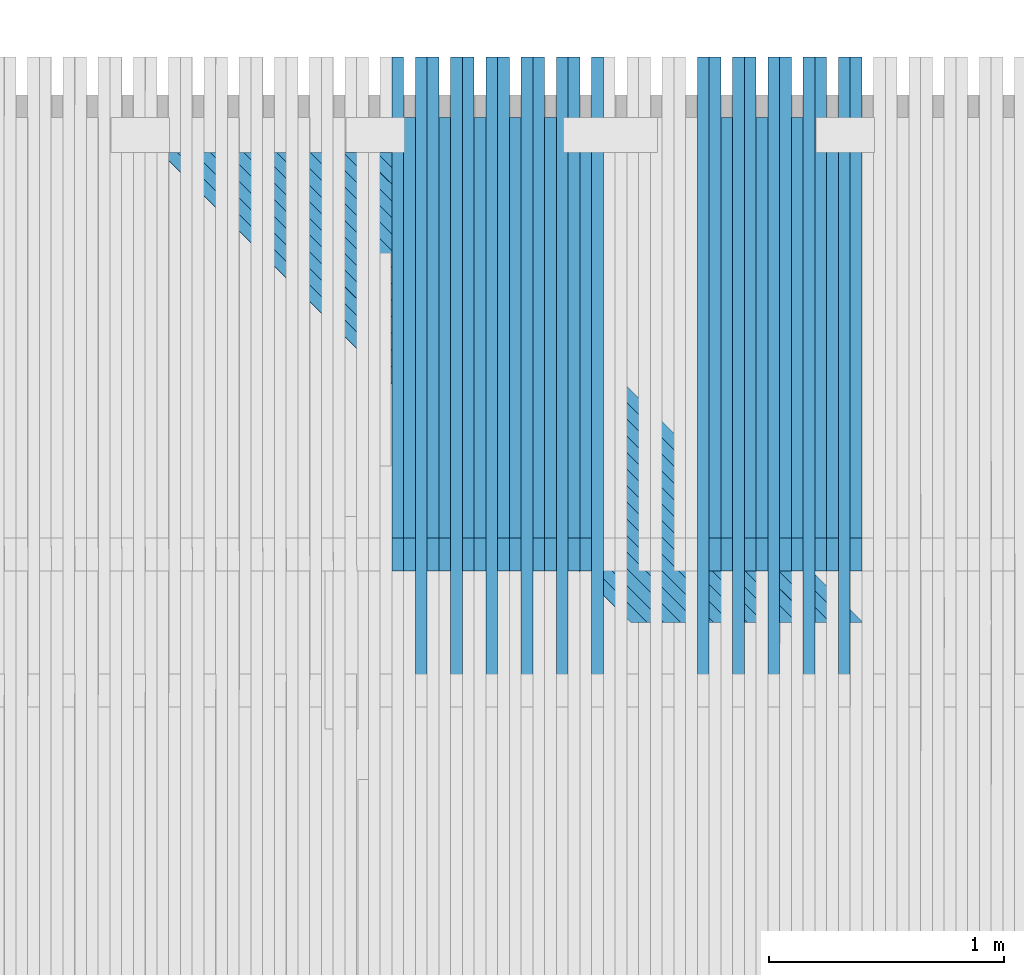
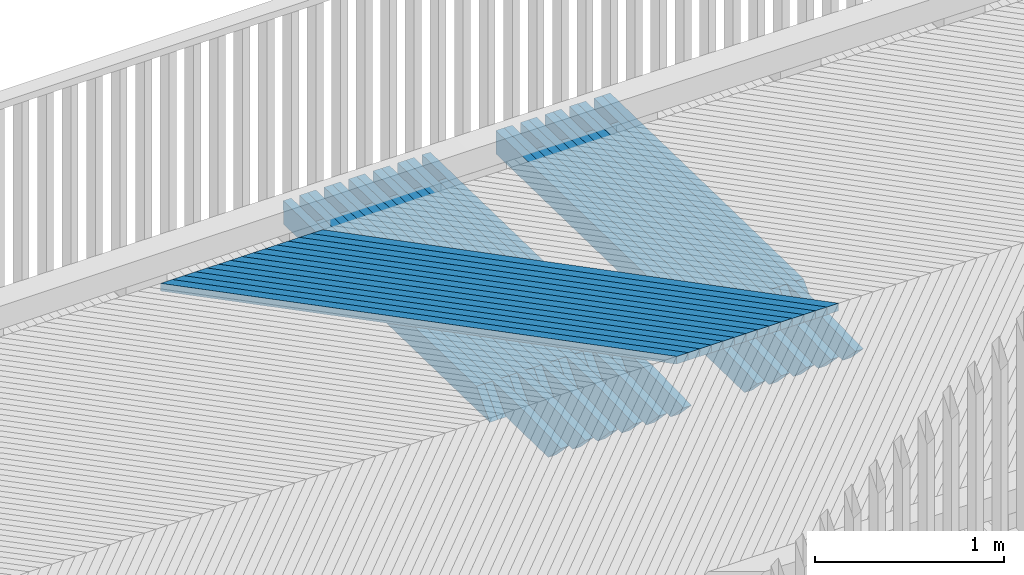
# One storey, part 32 of 47: 46 beams.
"""IFC2X3 building model written with IfcOpenShell, lengths in millimetres."""

from ifc_helpers import new_model, si_unit, frame, origin_with_axes, place, context, subcontext, project, spatial, faceted_brep, material, type_object, element, save


model = new_model("IFC2X3")

# Units and contexts
model_context = context("Model", 3, precision=1e-05, world=origin_with_axes())
body_context = subcontext(model_context, "Body", "Model", "MODEL_VIEW")
ifc_project = project(units=[si_unit("LENGTHUNIT", "METRE", prefix="MILLI"), si_unit("AREAUNIT", "SQUARE_METRE"), si_unit("VOLUMEUNIT", "CUBIC_METRE"), si_unit("MASSUNIT", "GRAM", prefix="KILO"), si_unit("TIMEUNIT", "SECOND"), si_unit("PLANEANGLEUNIT", "RADIAN"), si_unit("SOLIDANGLEUNIT", "STERADIAN"), si_unit("THERMODYNAMICTEMPERATUREUNIT", "DEGREE_CELSIUS"), si_unit("LUMINOUSINTENSITYUNIT", "LUMEN")], contexts=[model_context])

# Site, building, storey
site_placement = place(None, origin_with_axes())
site = spatial("IfcSite", under=ifc_project, at=site_placement, Name="Undefined", CompositionType="ELEMENT")
building_placement = place(site_placement, origin_with_axes())
building = spatial("IfcBuilding", under=site, at=building_placement, Name="Undefined", CompositionType="ELEMENT")
storey_placement = place(building_placement, origin_with_axes())
storey = spatial("IfcBuildingStorey", under=building, at=storey_placement, Name="Undefined", CompositionType="ELEMENT", Elevation=0.0)

# Beams
ifc_material = material(Name="TIMBER/Timber_Undefined")
beam_type_1 = type_object("IfcBeamType", Name="150*50", PredefinedType="NOTDEFINED")
beam_1_placement = place(storey_placement, frame((10050.2600322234, 64771.4438078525, 3084.49725776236), z_axis=(0.00340794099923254, 0.0199960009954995, 0.999794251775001), x_axis=(6.81579999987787e-05, -0.999800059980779, 0.0199958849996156)))
element("IfcBeam", 1, at=beam_1_placement, inside=storey, type_object=beam_type_1, material=ifc_material, Name="BEAM", ObjectType="150*50", context=body_context, shape_type="Brep", body=[
    faceted_brep([(6.18456397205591e-09, -24.9999999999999, -75.0000000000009), (-6.1918399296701e-09, -24.9999999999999, 74.9999999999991), (-6.19911588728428e-09, 25.0, 75.0), (6.18456397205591e-09, 24.9999999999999, -75.0), (2047.96935975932, 25.0, 75.0), (2186.42645864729, 25.0, -75.0), (2186.42645915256, -25.0000000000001, -75.0), (2047.96936034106, -25.0000000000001, 75.0)], [[[0, 1, 2, 3]], [[3, 2, 4, 5]], [[0, 3, 5, 6]], [[1, 0, 6, 7]], [[2, 1, 7, 4]], [[7, 6, 5, 4]]]),
])
beam_2_placement = place(storey_placement, frame((10000.2208937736, 64771.443807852, 3084.66694004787), z_axis=(0.00324112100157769, 0.0199960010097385, 0.999794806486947), x_axis=(6.48230000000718e-05, -0.999800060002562, 0.0199958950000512)))
element("IfcBeam", 2, at=beam_2_placement, inside=storey, type_object=beam_type_1, material=ifc_material, Name="BEAM", ObjectType="150*50", context=body_context, shape_type="Brep", body=[
    faceted_brep([(6.18456397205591e-09, -24.9999999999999, -75.0000000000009), (6.18456397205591e-09, 24.9999999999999, -75.0), (2633.00494983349, 25.0000000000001, -75.0000000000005), (2633.00495050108, -24.9999999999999, -75.0000000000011), (-6.1918399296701e-09, -24.9999999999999, 74.9999999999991), (-6.19911588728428e-09, 25.0, 75.0), (2408.42501428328, 25.0000000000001, 74.9999999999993), (2768.5924870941, 25.0, 60.5875375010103), (2768.59248707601, -25.0, 60.5875366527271), (2408.4250638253, -25.0, 74.9999999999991)], [[[0, 1, 2, 3]], [[0, 4, 5, 1]], [[2, 1, 5, 6, 7]], [[3, 2, 7, 8]], [[4, 0, 3, 8, 9]], [[5, 4, 9, 6]], [[8, 7, 6, 9]]]),
])
beam_3_placement = place(storey_placement, frame((9950.1530733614, 64513.4953923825, 3089.98889092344), z_axis=(0.00324112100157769, 0.0199960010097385, 0.999794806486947), x_axis=(6.48230000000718e-05, -0.999800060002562, 0.0199958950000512)))
element("IfcBeam", 3, at=beam_3_placement, inside=storey, type_object=beam_type_1, material=ifc_material, Name="BEAM", ObjectType="150*50", context=body_context, shape_type="Brep", body=[
    faceted_brep([(6.18456397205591e-09, -24.9999999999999, -75.0000000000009), (-6.1918399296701e-09, -24.9999999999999, 74.9999999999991), (-6.19911588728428e-09, 25.0, 75.0), (6.18456397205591e-09, 24.9999999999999, -75.0), (1789.96936586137, 25.0, 75.0000000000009), (1928.42646506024, 25.0, -75.0), (1928.4264649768, -24.9999999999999, -75.0), (1789.96936577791, -24.9999999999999, 75.0)], [[[0, 1, 2, 3]], [[3, 2, 4, 5]], [[0, 3, 5, 6]], [[1, 0, 6, 7]], [[2, 1, 7, 4]], [[7, 6, 5, 4]]]),
])
beam_4_placement = place(storey_placement, frame((9900.23207587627, 64771.4438078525, 3084.98955429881), z_axis=(0.00315875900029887, 0.019996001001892, 0.999795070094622), x_axis=(6.31749999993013e-05, -0.999800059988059, 0.0199959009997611)))
element("IfcBeam", 4, at=beam_4_placement, inside=storey, type_object=beam_type_1, material=ifc_material, Name="BEAM", ObjectType="150*50", context=body_context, shape_type="Brep", body=[
    faceted_brep([(6.18456397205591e-09, -24.9999999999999, -75.0000000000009), (-6.1918399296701e-09, -24.9999999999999, 74.9999999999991), (-6.19911588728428e-09, 25.0, 75.0), (6.18456397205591e-09, 24.9999999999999, -75.0), (2047.96935975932, 25.0, 75.0), (2186.42645864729, 25.0, -75.0), (2186.42645915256, -25.0000000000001, -75.0), (2047.96936034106, -25.0000000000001, 75.0)], [[[0, 1, 2, 3]], [[3, 2, 4, 5]], [[0, 3, 5, 6]], [[1, 0, 6, 7]], [[2, 1, 7, 4]], [[7, 6, 5, 4]]]),
])
beam_5_placement = place(storey_placement, frame((9850.19289669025, 64771.443807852, 3085.14676517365), z_axis=(0.00299193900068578, 0.0199960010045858, 0.999795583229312), x_axis=(5.98390000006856e-05, -0.999800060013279, 0.0199959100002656)))
element("IfcBeam", 5, at=beam_5_placement, inside=storey, type_object=beam_type_1, material=ifc_material, Name="BEAM", ObjectType="150*50", context=body_context, shape_type="Brep", body=[
    faceted_brep([(6.18456397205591e-09, -24.9999999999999, -75.0000000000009), (6.18456397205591e-09, 24.9999999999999, -75.0), (2633.00494983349, 25.0000000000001, -75.0000000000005), (2633.00495050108, -24.9999999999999, -75.0000000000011), (-6.1918399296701e-09, -24.9999999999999, 74.9999999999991), (-6.19911588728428e-09, 25.0, 75.0), (2408.42506497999, 24.9999999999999, 75.0), (2768.5924870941, 25.0, 60.5875375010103), (2768.59248707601, -25.0, 60.5875366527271), (2408.4250638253, -25.0, 74.9999999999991)], [[[0, 1, 2, 3]], [[0, 4, 5, 1]], [[2, 1, 5, 6, 7]], [[3, 2, 7, 8]], [[4, 0, 3, 8, 9]], [[5, 4, 9, 6]], [[8, 7, 6, 9]]]),
])
beam_6_placement = place(storey_placement, frame((9800.12375142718, 64513.4953923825, 3090.4562373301), z_axis=(0.00299193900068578, 0.0199960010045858, 0.999795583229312), x_axis=(5.98390000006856e-05, -0.999800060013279, 0.0199959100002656)))
element("IfcBeam", 6, at=beam_6_placement, inside=storey, type_object=beam_type_1, material=ifc_material, Name="BEAM", ObjectType="150*50", context=body_context, shape_type="Brep", body=[
    faceted_brep([(6.18456397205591e-09, -24.9999999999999, -75.0000000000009), (-6.1918399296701e-09, -24.9999999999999, 74.9999999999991), (-6.19911588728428e-09, 25.0, 75.0), (6.18456397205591e-09, 24.9999999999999, -75.0), (1789.96936586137, 25.0, 75.0000000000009), (1928.42646506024, 25.0, -75.0), (1928.4264649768, -24.9999999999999, -75.0), (1789.96936577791, -24.9999999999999, 75.0)], [[[0, 1, 2, 3]], [[3, 2, 4, 5]], [[0, 3, 5, 6]], [[1, 0, 6, 7]], [[2, 1, 7, 4]], [[7, 6, 5, 4]]]),
])
beam_7_placement = place(storey_placement, frame((9750.20400149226, 64771.4438078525, 3085.4444588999), z_axis=(0.00290957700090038, 0.019996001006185, 0.99979582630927), x_axis=(5.81909999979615e-05, -0.999800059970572, 0.0199959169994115)))
element("IfcBeam", 7, at=beam_7_placement, inside=storey, type_object=beam_type_1, material=ifc_material, Name="BEAM", ObjectType="150*50", context=body_context, shape_type="Brep", body=[
    faceted_brep([(6.18456397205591e-09, -24.9999999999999, -75.0000000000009), (-6.1918399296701e-09, -24.9999999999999, 74.9999999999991), (-6.19911588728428e-09, 25.0, 75.0), (6.18456397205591e-09, 24.9999999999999, -75.0), (2047.96935975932, 25.0, 75.0), (2186.42645864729, 25.0, -75.0), (2186.42645915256, -25.0000000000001, -75.0), (2047.96936034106, -25.0000000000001, 75.0)], [[[0, 1, 2, 3]], [[3, 2, 4, 5]], [[0, 3, 5, 6]], [[1, 0, 6, 7]], [[2, 1, 7, 4]], [[7, 6, 5, 4]]]),
])
beam_8_placement = place(storey_placement, frame((9700.16478467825, 64771.443807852, 3085.5891983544), z_axis=(0.00274275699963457, 0.0199960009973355, 0.999796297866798), x_axis=(5.48549999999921e-05, -0.99980005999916, 0.0199959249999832)))
element("IfcBeam", 8, at=beam_8_placement, inside=storey, type_object=beam_type_1, material=ifc_material, Name="BEAM", ObjectType="150*50", context=body_context, shape_type="Brep", body=[
    faceted_brep([(6.18456397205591e-09, -24.9999999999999, -75.0000000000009), (6.18456397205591e-09, 24.9999999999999, -75.0), (2633.00494983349, 25.0000000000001, -75.0000000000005), (2633.00495050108, -24.9999999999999, -75.0000000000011), (-6.1918399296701e-09, -24.9999999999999, 74.9999999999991), (-6.19911588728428e-09, 25.0, 75.0), (2408.42501428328, 25.0000000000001, 74.9999999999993), (2768.5924870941, 25.0, 60.5875375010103), (2768.59248707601, -25.0, 60.5875366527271), (2408.4250638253, -25.0, 74.9999999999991)], [[[0, 1, 2, 3]], [[0, 4, 5, 1]], [[2, 1, 5, 6, 7]], [[3, 2, 7, 8]], [[4, 0, 3, 8, 9]], [[5, 4, 9, 6]], [[8, 7, 6, 9]]]),
])
beam_9_placement = place(storey_placement, frame((9650.0943176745, 64513.4953923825, 3090.88619146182), z_axis=(0.00274275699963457, 0.0199960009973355, 0.999796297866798), x_axis=(5.48549999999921e-05, -0.99980005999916, 0.0199959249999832)))
element("IfcBeam", 9, at=beam_9_placement, inside=storey, type_object=beam_type_1, material=ifc_material, Name="BEAM", ObjectType="150*50", context=body_context, shape_type="Brep", body=[
    faceted_brep([(6.18456397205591e-09, -24.9999999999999, -75.0000000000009), (-6.1918399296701e-09, -24.9999999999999, 74.9999999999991), (-6.19911588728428e-09, 25.0, 75.0), (6.18456397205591e-09, 24.9999999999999, -75.0), (1789.96936586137, 25.0, 75.0000000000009), (1928.42646506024, 25.0, -75.0), (1928.4264649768, -24.9999999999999, -75.0), (1789.96936577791, -24.9999999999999, 75.0)], [[[0, 1, 2, 3]], [[3, 2, 4, 5]], [[0, 3, 5, 6]], [[1, 0, 6, 7]], [[2, 1, 7, 4]], [[7, 6, 5, 4]]]),
])
beam_10_placement = place(storey_placement, frame((9600.17581839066, 64771.4438078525, 3085.8619715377), z_axis=(0.00266039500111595, 0.0199960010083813, 0.999796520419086), x_axis=(5.32079999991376e-05, -0.999800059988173, 0.0199959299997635)))
element("IfcBeam", 10, at=beam_10_placement, inside=storey, type_object=beam_type_1, material=ifc_material, Name="BEAM", ObjectType="150*50", context=body_context, shape_type="Brep", body=[
    faceted_brep([(6.18456397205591e-09, -24.9999999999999, -75.0000000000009), (-6.1918399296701e-09, -24.9999999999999, 74.9999999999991), (-6.19911588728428e-09, 25.0, 75.0), (6.18456397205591e-09, 24.9999999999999, -75.0), (2047.96935975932, 25.0, 75.0), (2186.42645864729, 25.0, -75.0), (2186.42645915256, -25.0000000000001, -75.0), (2047.96936034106, -25.0000000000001, 75.0)], [[[0, 1, 2, 3]], [[3, 2, 4, 5]], [[0, 3, 5, 6]], [[1, 0, 6, 7]], [[2, 1, 7, 4]], [[7, 6, 5, 4]]]),
])
beam_11_placement = place(storey_placement, frame((9550.13656705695, 64771.443807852, 3085.99423956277), z_axis=(0.00249357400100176, 0.019996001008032, 0.999796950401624), x_axis=(4.98719999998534e-05, -0.99980006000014, 0.0199959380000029)))
element("IfcBeam", 11, at=beam_11_placement, inside=storey, type_object=beam_type_1, material=ifc_material, Name="BEAM", ObjectType="150*50", context=body_context, shape_type="Brep", body=[
    faceted_brep([(6.18456397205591e-09, -24.9999999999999, -75.0000000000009), (6.18456397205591e-09, 24.9999999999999, -75.0), (2633.00494983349, 25.0000000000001, -75.0000000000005), (2633.00495050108, -24.9999999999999, -75.0000000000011), (-6.1918399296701e-09, -24.9999999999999, 74.9999999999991), (-6.19911588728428e-09, 25.0, 75.0), (2408.42501428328, 25.0000000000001, 74.9999999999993), (2768.5924870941, 25.0, 60.5875375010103), (2768.59248707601, -25.0, 60.5875366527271), (2408.4250638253, -25.0, 74.9999999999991)], [[[0, 1, 2, 3]], [[0, 4, 5, 1]], [[2, 1, 5, 6, 7]], [[3, 2, 7, 8]], [[4, 0, 3, 8, 9]], [[5, 4, 9, 6]], [[8, 7, 6, 9]]]),
])
beam_12_placement = place(storey_placement, frame((9500.06478142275, 64513.4953923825, 3091.2787532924), z_axis=(0.00249357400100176, 0.019996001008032, 0.999796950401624), x_axis=(4.98719999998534e-05, -0.99980006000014, 0.0199959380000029)))
element("IfcBeam", 12, at=beam_12_placement, inside=storey, type_object=beam_type_1, material=ifc_material, Name="BEAM", ObjectType="150*50", context=body_context, shape_type="Brep", body=[
    faceted_brep([(6.18456397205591e-09, -24.9999999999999, -75.0000000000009), (-6.1918399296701e-09, -24.9999999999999, 74.9999999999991), (-6.19911588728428e-09, 25.0, 75.0), (6.18456397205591e-09, 24.9999999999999, -75.0), (1789.96936586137, 25.0, 75.0000000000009), (1928.42646506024, 25.0, -75.0), (1928.4264649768, -24.9999999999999, -75.0), (1789.96936577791, -24.9999999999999, 75.0)], [[[0, 1, 2, 3]], [[3, 2, 4, 5]], [[0, 3, 5, 6]], [[1, 0, 6, 7]], [[2, 1, 7, 4]], [[7, 6, 5, 4]]]),
])
beam_13_placement = place(storey_placement, frame((9450.14753589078, 64771.4438078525, 3086.24209218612), z_axis=(0.00241121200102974, 0.0199960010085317, 0.999797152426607), x_axis=(4.82239999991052e-05, -0.999800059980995, 0.0199959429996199)))
element("IfcBeam", 13, at=beam_13_placement, inside=storey, type_object=beam_type_1, material=ifc_material, Name="BEAM", ObjectType="150*50", context=body_context, shape_type="Brep", body=[
    faceted_brep([(6.18456397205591e-09, -24.9999999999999, -75.0000000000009), (-6.1918399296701e-09, -24.9999999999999, 74.9999999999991), (-6.19911588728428e-09, 25.0, 75.0), (6.18456397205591e-09, 24.9999999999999, -75.0), (2047.96935975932, 25.0, 75.0), (2186.42645864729, 25.0, -75.0), (2186.42645915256, -25.0000000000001, -75.0), (2047.96936034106, -25.0000000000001, 75.0)], [[[0, 1, 2, 3]], [[3, 2, 4, 5]], [[0, 3, 5, 6]], [[1, 0, 6, 7]], [[2, 1, 7, 4]], [[7, 6, 5, 4]]]),
])
for number, where, z_axis, x_axis, name in (
    (14, (9400.10825314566, 64771.443807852, 3086.36188877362), (0.00224439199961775, 0.0199960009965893, 0.99979754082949), (4.48879999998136e-05, -0.999800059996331, 0.0199959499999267), "BEAM"),
    (15, (8950.02282686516, 64771.443807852, 3087.24048420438), (0.00149684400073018, 0.0199960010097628, 0.999798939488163), (2.99369999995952e-05, -0.999800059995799, 0.019995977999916), "BEAM"),
):
    element("IfcBeam", number, at=place(storey_placement, frame(where, z_axis=z_axis, x_axis=x_axis)), inside=storey, type_object=beam_type_1, material=ifc_material, Name=name, ObjectType="150*50", context=body_context, shape_type="Brep", body=[
        faceted_brep([(6.18456397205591e-09, -24.9999999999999, -75.0000000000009), (6.18456397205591e-09, 24.9999999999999, -75.0), (2633.00494983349, 25.0000000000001, -75.0000000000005), (2633.00495050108, -24.9999999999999, -75.0000000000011), (-6.1918399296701e-09, -24.9999999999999, 74.9999999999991), (-6.19911588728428e-09, 25.0, 75.0), (2408.42501428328, 25.0000000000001, 74.9999999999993), (2768.5924870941, 25.0, 60.5875375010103), (2768.59248707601, -25.0, 60.5875366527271), (2408.42499905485, -25.0, 74.9999999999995)], [[[0, 1, 2, 3]], [[0, 4, 5, 1]], [[2, 1, 5, 6, 7]], [[3, 2, 7, 8]], [[4, 0, 3, 8, 9]], [[5, 4, 9, 6]], [[6, 9, 8, 7]]]),
    ])
beam_14_placement = place(storey_placement, frame((8899.94579781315, 64513.4953923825, 3092.47507714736), z_axis=(0.00149684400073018, 0.0199960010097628, 0.999798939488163), x_axis=(2.99369999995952e-05, -0.999800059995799, 0.019995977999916)))
element("IfcBeam", 16, at=beam_14_placement, inside=storey, type_object=beam_type_1, material=ifc_material, Name="BEAM", ObjectType="150*50", context=body_context, shape_type="Brep", body=[
    faceted_brep([(6.18456397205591e-09, -24.9999999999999, -75.0000000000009), (-6.1918399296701e-09, -24.9999999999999, 74.9999999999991), (-6.19911588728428e-09, 25.0, 75.0), (6.18456397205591e-09, 24.9999999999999, -75.0), (1789.96936586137, 25.0, 75.0000000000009), (1928.42646506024, 25.0, -75.0), (1928.4264649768, -24.9999999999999, -75.0), (1789.96936577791, -24.9999999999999, 75.0)], [[[0, 1, 2, 3]], [[3, 2, 4, 5]], [[0, 3, 5, 6]], [[1, 0, 6, 7]], [[2, 1, 7, 4]], [[7, 6, 5, 4]]]),
])
beam_15_placement = place(storey_placement, frame((8850.03359829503, 64771.4438078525, 3087.38865444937), z_axis=(0.00141448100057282, 0.0199960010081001, 0.99979905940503), x_axis=(2.82889999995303e-05, -0.999800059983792, 0.0199959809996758)))
element("IfcBeam", 17, at=beam_15_placement, inside=storey, type_object=beam_type_1, material=ifc_material, Name="BEAM", ObjectType="150*50", context=body_context, shape_type="Brep", body=[
    faceted_brep([(6.18456397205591e-09, -24.9999999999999, -75.0000000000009), (-6.1918399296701e-09, -24.9999999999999, 74.9999999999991), (-6.19911588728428e-09, 25.0, 75.0), (6.18456397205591e-09, 24.9999999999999, -75.0), (2047.96935975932, 25.0, 75.0), (2186.42645864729, 25.0, -75.0), (2186.42645915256, -25.0000000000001, -75.0), (2047.96936034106, -25.0000000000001, 75.0)], [[[0, 1, 2, 3]], [[3, 2, 4, 5]], [[0, 3, 5, 6]], [[1, 0, 6, 7]], [[2, 1, 7, 4]], [[7, 6, 5, 4]]]),
])
beam_16_placement = place(storey_placement, frame((8799.99422098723, 64771.443807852, 3087.45856522), z_axis=(0.00124766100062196, 0.0199960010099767, 0.99979928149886), x_axis=(2.49530000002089e-05, -0.999800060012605, 0.0199959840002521)))
element("IfcBeam", 18, at=beam_16_placement, inside=storey, type_object=beam_type_1, material=ifc_material, Name="BEAM", ObjectType="150*50", context=body_context, shape_type="Brep", body=[
    faceted_brep([(6.18456397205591e-09, -24.9999999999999, -75.0000000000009), (6.18456397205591e-09, 24.9999999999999, -75.0), (2633.00494983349, 25.0000000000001, -75.0000000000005), (2633.00495050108, -24.9999999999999, -75.0000000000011), (-6.1918399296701e-09, -24.9999999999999, 74.9999999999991), (-6.19911588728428e-09, 25.0, 75.0), (2408.42506497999, 24.9999999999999, 75.0), (2768.5924870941, 25.0, 60.5875375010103), (2768.59248707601, -25.0, 60.5875366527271), (2408.4250638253, -25.0, 74.9999999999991)], [[[0, 1, 2, 3]], [[0, 4, 5, 1]], [[2, 1, 5, 6, 7]], [[3, 2, 7, 8]], [[4, 0, 3, 8, 9]], [[5, 4, 9, 6]], [[8, 7, 6, 9]]]),
])
beam_17_placement = place(storey_placement, frame((8749.91588885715, 64513.4953923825, 3092.68067715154), z_axis=(0.00124766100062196, 0.0199960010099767, 0.99979928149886), x_axis=(2.49530000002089e-05, -0.999800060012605, 0.0199959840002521)))
element("IfcBeam", 19, at=beam_17_placement, inside=storey, type_object=beam_type_1, material=ifc_material, Name="BEAM", ObjectType="150*50", context=body_context, shape_type="Brep", body=[
    faceted_brep([(6.18456397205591e-09, -24.9999999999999, -75.0000000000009), (-6.1918399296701e-09, -24.9999999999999, 74.9999999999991), (-6.19911588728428e-09, 25.0, 75.0), (6.18456397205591e-09, 24.9999999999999, -75.0), (1789.96936586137, 25.0, 75.0000000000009), (1928.42646506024, 25.0, -75.0), (1928.4264649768, -24.9999999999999, -75.0), (1789.96936577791, -24.9999999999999, 75.0)], [[[0, 1, 2, 3]], [[3, 2, 4, 5]], [[0, 3, 5, 6]], [[1, 0, 6, 7]], [[2, 1, 7, 4]], [[7, 6, 5, 4]]]),
])
beam_18_placement = place(storey_placement, frame((8700.0049585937, 64771.4438078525, 3087.58181484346), z_axis=(0.00116529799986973, 0.0199960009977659, 0.99979938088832), x_axis=(2.33059999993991e-05, -0.999800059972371, 0.0199959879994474)))
element("IfcBeam", 20, at=beam_18_placement, inside=storey, type_object=beam_type_1, material=ifc_material, Name="BEAM", ObjectType="150*50", context=body_context, shape_type="Brep", body=[
    faceted_brep([(6.18456397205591e-09, -24.9999999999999, -75.0000000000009), (-6.1918399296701e-09, -24.9999999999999, 74.9999999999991), (-6.19911588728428e-09, 25.0, 75.0), (6.18456397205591e-09, 24.9999999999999, -75.0), (2047.96935975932, 25.0, 75.0), (2186.42645864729, 25.0, -75.0), (2186.42645915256, -25.0000000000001, -75.0), (2047.96936034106, -25.0000000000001, 75.0)], [[[0, 1, 2, 3]], [[3, 2, 4, 5]], [[0, 3, 5, 6]], [[1, 0, 6, 7]], [[2, 1, 7, 4]], [[7, 6, 5, 4]]]),
])
beam_19_placement = place(storey_placement, frame((8649.96556541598, 64771.443807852, 3087.63925414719), z_axis=(0.000998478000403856, 0.0199960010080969, 0.999799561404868), x_axis=(1.99700000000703e-05, -0.999800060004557, 0.0199959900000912)))
element("IfcBeam", 21, at=beam_19_placement, inside=storey, type_object=beam_type_1, material=ifc_material, Name="BEAM", ObjectType="150*50", context=body_context, shape_type="Brep", body=[
    faceted_brep([(6.18456397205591e-09, -24.9999999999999, -75.0000000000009), (6.18456397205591e-09, 24.9999999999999, -75.0), (2633.00494983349, 25.0000000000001, -75.0000000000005), (2633.00495050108, -24.9999999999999, -75.0000000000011), (-6.1918399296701e-09, -24.9999999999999, 74.9999999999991), (-6.19911588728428e-09, 25.0, 75.0), (2408.42506497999, 24.9999999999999, 75.0), (2768.5924870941, 25.0, 60.5875375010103), (2768.59248707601, -25.0, 60.5875366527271), (2408.4250638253, -25.0, 74.9999999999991)], [[[0, 1, 2, 3]], [[0, 4, 5, 1]], [[2, 1, 5, 6, 7]], [[3, 2, 7, 8]], [[4, 0, 3, 8, 9]], [[5, 4, 9, 6]], [[8, 7, 6, 9]]]),
])
beam_20_placement = place(storey_placement, frame((8599.88593331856, 64513.4953923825, 3092.84888474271), z_axis=(0.000998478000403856, 0.0199960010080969, 0.999799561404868), x_axis=(1.99700000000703e-05, -0.999800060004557, 0.0199959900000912)))
element("IfcBeam", 22, at=beam_20_placement, inside=storey, type_object=beam_type_1, material=ifc_material, Name="BEAM", ObjectType="150*50", context=body_context, shape_type="Brep", body=[
    faceted_brep([(6.18456397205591e-09, -24.9999999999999, -75.0000000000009), (-6.1918399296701e-09, -24.9999999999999, 74.9999999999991), (-6.19911588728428e-09, 25.0, 75.0), (6.18456397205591e-09, 24.9999999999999, -75.0), (1789.96936586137, 25.0, 75.0000000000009), (1928.42646506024, 25.0, -75.0), (1928.4264649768, -24.9999999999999, -75.0), (1789.96936577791, -24.9999999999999, 75.0)], [[[0, 1, 2, 3]], [[3, 2, 4, 5]], [[0, 3, 5, 6]], [[1, 0, 6, 7]], [[2, 1, 7, 4]], [[7, 6, 5, 4]]]),
])
beam_21_placement = place(storey_placement, frame((8549.9762754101, 64771.4438078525, 3087.73758314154), z_axis=(0.00091611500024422, 0.0199960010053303, 0.999799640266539), x_axis=(1.83219999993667e-05, -0.999800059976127, 0.0199959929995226)))
element("IfcBeam", 23, at=beam_21_placement, inside=storey, type_object=beam_type_1, material=ifc_material, Name="BEAM", ObjectType="150*50", context=body_context, shape_type="Brep", body=[
    faceted_brep([(6.18456397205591e-09, -24.9999999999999, -75.0000000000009), (-6.1918399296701e-09, -24.9999999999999, 74.9999999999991), (-6.19911588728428e-09, 25.0, 75.0), (6.18456397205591e-09, 24.9999999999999, -75.0), (2047.96935975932, 25.0, 75.0), (2186.42645864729, 25.0, -75.0), (2186.42645915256, -25.0000000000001, -75.0), (2047.96936034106, -25.0000000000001, 75.0)], [[[0, 1, 2, 3]], [[3, 2, 4, 5]], [[0, 3, 5, 6]], [[1, 0, 6, 7]], [[2, 1, 7, 4]], [[7, 6, 5, 4]]]),
])
beam_22_placement = place(storey_placement, frame((8499.93686947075, 64771.443807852, 3087.78255097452), z_axis=(0.000749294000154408, 0.0199960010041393, 0.999799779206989), x_axis=(1.49860000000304e-05, -0.999800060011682, 0.0199959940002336)))
element("IfcBeam", 24, at=beam_22_placement, inside=storey, type_object=beam_type_1, material=ifc_material, Name="BEAM", ObjectType="150*50", context=body_context, shape_type="Brep", body=[
    faceted_brep([(6.18456397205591e-09, -24.9999999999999, -75.0000000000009), (6.18456397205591e-09, 24.9999999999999, -75.0), (2633.00494983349, 25.0000000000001, -75.0000000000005), (2633.00495050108, -24.9999999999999, -75.0000000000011), (-6.1918399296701e-09, -24.9999999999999, 74.9999999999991), (-6.19911588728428e-09, 25.0, 75.0), (2408.42506497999, 24.9999999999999, 75.0), (2768.5924870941, 25.0, 60.5875375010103), (2768.59248707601, -25.0, 60.5875366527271), (2408.4250638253, -25.0, 74.9999999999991)], [[[0, 1, 2, 3]], [[0, 4, 5, 1]], [[2, 1, 5, 6, 7]], [[3, 2, 7, 8]], [[4, 0, 3, 8, 9]], [[5, 4, 9, 6]], [[8, 7, 6, 9]]]),
])
beam_23_placement = place(storey_placement, frame((8449.8559405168, 64513.4953923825, 3092.97969991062), z_axis=(0.000749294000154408, 0.0199960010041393, 0.999799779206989), x_axis=(1.49860000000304e-05, -0.999800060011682, 0.0199959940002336)))
element("IfcBeam", 25, at=beam_23_placement, inside=storey, type_object=beam_type_1, material=ifc_material, Name="BEAM", ObjectType="150*50", context=body_context, shape_type="Brep", body=[
    faceted_brep([(6.18456397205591e-09, -24.9999999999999, -75.0000000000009), (-6.1918399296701e-09, -24.9999999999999, 74.9999999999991), (-6.19911588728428e-09, 25.0, 75.0), (6.18456397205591e-09, 24.9999999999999, -75.0), (1789.96936586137, 25.0, 75.0000000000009), (1928.42646506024, 25.0, -75.0), (1928.4264649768, -24.9999999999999, -75.0), (1789.96936577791, -24.9999999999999, 75.0)], [[[0, 1, 2, 3]], [[3, 2, 4, 5]], [[0, 3, 5, 6]], [[1, 0, 6, 7]], [[2, 1, 7, 4]], [[7, 6, 5, 4]]]),
])
beam_24_placement = place(storey_placement, frame((8399.94755806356, 64771.4438078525, 3087.8559593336), z_axis=(0.000666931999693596, 0.0199960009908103, 0.999799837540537), x_axis=(1.33379999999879e-05, -0.99980005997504, 0.0199959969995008)))
element("IfcBeam", 26, at=beam_24_placement, inside=storey, type_object=beam_type_1, material=ifc_material, Name="BEAM", ObjectType="150*50", context=body_context, shape_type="Brep", body=[
    faceted_brep([(6.18456397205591e-09, -24.9999999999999, -75.0000000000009), (-6.1918399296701e-09, -24.9999999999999, 74.9999999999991), (-6.19911588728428e-09, 25.0, 75.0), (6.18456397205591e-09, 24.9999999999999, -75.0), (2047.96935975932, 25.0, 75.0), (2186.42645864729, 25.0, -75.0), (2186.42645915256, -25.0000000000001, -75.0), (2047.96936034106, -25.0000000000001, 75.0)], [[[0, 1, 2, 3]], [[3, 2, 4, 5]], [[0, 3, 5, 6]], [[1, 0, 6, 7]], [[2, 1, 7, 4]], [[7, 6, 5, 4]]]),
])
beam_25_placement = place(storey_placement, frame((8349.9081424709, 64771.443807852, 3087.88845569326), z_axis=(0.000500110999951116, 0.0199960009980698, 0.999799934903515), x_axis=(1.00019999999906e-05, -0.999800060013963, 0.0199959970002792)))
element("IfcBeam", 27, at=beam_25_placement, inside=storey, type_object=beam_type_1, material=ifc_material, Name="BEAM", ObjectType="150*50", context=body_context, shape_type="Brep", body=[
    faceted_brep([(6.18456397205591e-09, -24.9999999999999, -75.0000000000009), (6.18456397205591e-09, 24.9999999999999, -75.0), (2633.00494983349, 25.0000000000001, -75.0000000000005), (2633.00495050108, -24.9999999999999, -75.0000000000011), (-6.1918399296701e-09, -24.9999999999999, 74.9999999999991), (-6.19911588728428e-09, 25.0, 75.0), (2408.42506497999, 24.9999999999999, 75.0), (2768.5924870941, 25.0, 60.5875375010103), (2768.59248707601, -25.0, 60.5875366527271), (2408.4250638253, -25.0, 74.9999999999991)], [[[0, 1, 2, 3]], [[0, 4, 5, 1]], [[2, 1, 5, 6, 7]], [[3, 2, 7, 8]], [[4, 0, 3, 8, 9]], [[5, 4, 9, 6]], [[8, 7, 6, 9]]]),
])
beam_26_placement = place(storey_placement, frame((8299.82591977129, 64513.4953923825, 3093.07312264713), z_axis=(0.000500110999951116, 0.0199960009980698, 0.999799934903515), x_axis=(1.00019999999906e-05, -0.999800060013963, 0.0199959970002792)))
element("IfcBeam", 28, at=beam_26_placement, inside=storey, type_object=beam_type_1, material=ifc_material, Name="BEAM", ObjectType="150*50", context=body_context, shape_type="Brep", body=[
    faceted_brep([(6.18456397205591e-09, -24.9999999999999, -75.0000000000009), (-6.1918399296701e-09, -24.9999999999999, 74.9999999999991), (-6.19911588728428e-09, 25.0, 75.0), (6.18456397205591e-09, 24.9999999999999, -75.0), (1789.96936586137, 25.0, 75.0000000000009), (1928.42646506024, 25.0, -75.0), (1928.4264649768, -24.9999999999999, -75.0), (1789.96936577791, -24.9999999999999, 75.0)], [[[0, 1, 2, 3]], [[3, 2, 4, 5]], [[0, 3, 5, 6]], [[1, 0, 6, 7]], [[2, 1, 7, 4]], [[7, 6, 5, 4]]]),
])
beam_27_placement = place(storey_placement, frame((8249.91881587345, 64771.4438078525, 3087.93694341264), z_axis=(0.000417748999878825, 0.0199960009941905, 0.999799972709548), x_axis=(8.35499999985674e-06, -0.999800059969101, 0.0199959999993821)))
element("IfcBeam", 29, at=beam_27_placement, inside=storey, type_object=beam_type_1, material=ifc_material, Name="BEAM", ObjectType="150*50", context=body_context, shape_type="Brep", body=[
    faceted_brep([(6.18456397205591e-09, -24.9999999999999, -75.0000000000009), (-6.1918399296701e-09, -24.9999999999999, 74.9999999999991), (-6.19911588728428e-09, 25.0, 75.0), (6.18456397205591e-09, 24.9999999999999, -75.0), (2047.96935975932, 25.0, 75.0), (2186.42645864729, 25.0, -75.0), (2186.42645915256, -25.0000000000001, -75.0), (2047.96936034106, -25.0000000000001, 75.0)], [[[0, 1, 2, 3]], [[3, 2, 4, 5]], [[0, 3, 5, 6]], [[1, 0, 6, 7]], [[2, 1, 7, 4]], [[7, 6, 5, 4]]]),
])
beam_28_placement = place(storey_placement, frame((8199.87939373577, 64771.443807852, 3087.95696829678), z_axis=(0.000250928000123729, 0.019996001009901, 0.999800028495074), x_axis=(5.01899999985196e-06, -0.999800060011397, 0.0199959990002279)))
element("IfcBeam", 30, at=beam_28_placement, inside=storey, type_object=beam_type_1, material=ifc_material, Name="BEAM", ObjectType="150*50", context=body_context, shape_type="Brep", body=[
    faceted_brep([(6.18456397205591e-09, -24.9999999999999, -75.0000000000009), (6.18456397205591e-09, 24.9999999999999, -75.0), (2633.00494983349, 25.0000000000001, -75.0000000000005), (2633.00495050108, -24.9999999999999, -75.0000000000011), (-6.1918399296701e-09, -24.9999999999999, 74.9999999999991), (-6.19911588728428e-09, 25.0, 75.0), (2408.42506497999, 24.9999999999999, 75.0), (2768.5924870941, 25.0, 60.5875375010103), (2768.59248707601, -25.0, 60.5875366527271), (2408.4250638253, -25.0, 74.9999999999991)], [[[0, 1, 2, 3]], [[0, 4, 5, 1]], [[2, 1, 5, 6, 7]], [[3, 2, 7, 8]], [[4, 0, 3, 8, 9]], [[5, 4, 9, 6]], [[8, 7, 6, 9]]]),
])
beam_29_placement = place(storey_placement, frame((8149.79588040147, 64513.4953923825, 3093.12915294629), z_axis=(0.000250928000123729, 0.019996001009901, 0.999800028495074), x_axis=(5.01899999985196e-06, -0.999800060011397, 0.0199959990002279)))
element("IfcBeam", 31, at=beam_29_placement, inside=storey, type_object=beam_type_1, material=ifc_material, Name="BEAM", ObjectType="150*50", context=body_context, shape_type="Brep", body=[
    faceted_brep([(6.18456397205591e-09, -24.9999999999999, -75.0000000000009), (-6.1918399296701e-09, -24.9999999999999, 74.9999999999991), (-6.19911588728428e-09, 25.0, 75.0), (6.18456397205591e-09, 24.9999999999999, -75.0), (1789.96936586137, 25.0, 75.0000000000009), (1928.42646506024, 25.0, -75.0), (1928.4264649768, -24.9999999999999, -75.0), (1789.96936577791, -24.9999999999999, 75.0)], [[[0, 1, 2, 3]], [[3, 2, 4, 5]], [[0, 3, 5, 6]], [[1, 0, 6, 7]], [[2, 1, 7, 4]], [[7, 6, 5, 4]]]),
])
beam_30_placement = place(storey_placement, frame((8099.8900581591, 64771.4438078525, 3087.98053537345), z_axis=(0.000168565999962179, 0.0199960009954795, 0.999800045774), x_axis=(3.3709999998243e-06, -0.999800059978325, 0.0199960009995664)))
element("IfcBeam", 32, at=beam_30_placement, inside=storey, type_object=beam_type_1, material=ifc_material, Name="BEAM", ObjectType="150*50", context=body_context, shape_type="Brep", body=[
    faceted_brep([(6.18456397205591e-09, -24.9999999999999, -75.0000000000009), (-6.1918399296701e-09, -24.9999999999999, 74.9999999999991), (-6.19911588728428e-09, 25.0, 75.0), (6.18456397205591e-09, 24.9999999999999, -75.0), (2047.96935975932, 25.0, 75.0), (2186.42645864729, 25.0, -75.0), (2186.42645915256, -25.0000000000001, -75.0), (2047.96936034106, -25.0000000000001, 75.0)], [[[0, 1, 2, 3]], [[3, 2, 4, 5]], [[0, 3, 5, 6]], [[1, 0, 6, 7]], [[2, 1, 7, 4]], [[7, 6, 5, 4]]]),
])
beam_type_2 = type_object("IfcBeamType", Name="50*50", PredefinedType="NOTDEFINED")
for number, where, z_axis, x_axis, name in (
    (33, (10045.356927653, 62365.4998996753, 3232.64802933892), (0.707066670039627, 0.706981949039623, -0.0152724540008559), (-0.707145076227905, 0.706948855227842, -0.0130060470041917), "BEAM"),
    (34, (9974.63308828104, 62365.4998996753, 3232.8841246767), (0.707068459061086, 0.706981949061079, -0.0151894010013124), (-0.707143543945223, 0.706948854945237, -0.0130891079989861), "BEAM"),
    (35, (9903.90922166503, 62365.4998996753, 3233.11191274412), (0.707070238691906, 0.706981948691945, -0.0151063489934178), (-0.707142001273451, 0.706948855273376, -0.0131721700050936), "BEAM"),
    (36, (9833.18532878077, 62365.4998996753, 3233.33139353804), (0.707072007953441, 0.706981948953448, -0.0150232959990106), (-0.707140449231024, 0.706948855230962, -0.0132552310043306), "BEAM"),
    (37, (9762.46141060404, 62365.4998996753, 3233.54256705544), (0.707073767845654, 0.706981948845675, -0.0149402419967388), (-0.707138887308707, 0.706948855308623, -0.0133382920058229), "BEAM"),
    (38, (9691.73746811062, 62365.4998996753, 3233.7454332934), (0.707075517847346, 0.706981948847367, -0.0148571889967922), (-0.707137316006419, 0.706948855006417, -0.0134213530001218), "BEAM"),
    (39, (9621.01350227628, 62365.4998996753, 3233.93999224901), (0.707077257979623, 0.706981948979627, -0.0147741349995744), (-0.707135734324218, 0.706948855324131, -0.0135044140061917), "BEAM"),
    (40, (9550.28951407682, 62365.4998996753, 3234.12624391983), (0.707078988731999, 0.706981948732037, -0.0146910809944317), (-0.70713414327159, 0.706948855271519, -0.0135874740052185), "BEAM"),
    (41, (9479.565504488, 62365.4998996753, 3234.30418830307), (0.70708070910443, 0.706981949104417, -0.0146080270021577), (-0.70713254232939, 0.706948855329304, -0.0136705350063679), "BEAM"),
    (42, (9408.8414744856, 62365.4998996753, 3234.4738253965), (0.707082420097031, 0.706981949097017, -0.0145249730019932), (-0.707130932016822, 0.706948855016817, -0.0137535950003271), "BEAM"),
    (43, (9338.11742504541, 62365.4998996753, 3234.63515519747), (0.707084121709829, 0.706981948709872, -0.0144419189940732), (-0.707129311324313, 0.70694885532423, -0.0138366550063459), "BEAM"),
    (44, (9267.39335714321, 62365.4998996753, 3234.78817770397), (0.70708581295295, 0.706981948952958, -0.0143588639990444), (-0.707127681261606, 0.706948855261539, -0.0139197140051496), "BEAM"),
    (45, (9196.66927175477, 62365.4998996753, 3234.93289291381), (0.707087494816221, 0.70698194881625, -0.0142758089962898), (-0.707126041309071, 0.706948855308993, -0.0140027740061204), "BEAM"),
    (46, (9125.94516985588, 62365.4998996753, 3235.06930082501), (0.707089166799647, 0.706981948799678, -0.0141927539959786), (-0.707124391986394, 0.706948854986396, -0.0140858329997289), "BEAM"),
):
    element("IfcBeam", number, at=place(storey_placement, frame(where, z_axis=z_axis, x_axis=x_axis)), inside=storey, type_object=beam_type_2, material=ifc_material, Name=name, ObjectType="50*50", context=body_context, shape_type="Brep", body=[
        faceted_brep([(23.5869248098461, 25.0, -25.0), (-26.4154158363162, 25.0, 25.0), (2802.92643296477, 25.0000000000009, 25.0), (2852.92877373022, 25.0000000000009, -25.0), (-25.0011704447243, -25.0, 24.9999999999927), (2804.34067830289, -24.9999999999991, 25.0), (25.0011701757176, -25.0, -24.9999999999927), (2854.34301907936, -24.9999999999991, -25.0)], [[[0, 1, 2, 3]], [[1, 4, 5, 2]], [[4, 6, 7, 5]], [[6, 0, 3, 7]], [[5, 7, 3, 2]], [[6, 4, 1, 0]]]),
    ])

save(model, "model.ifc")
